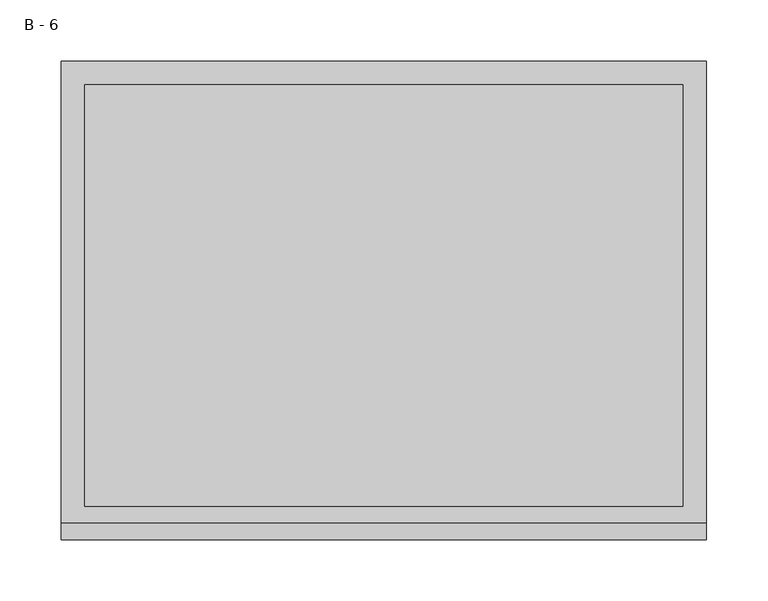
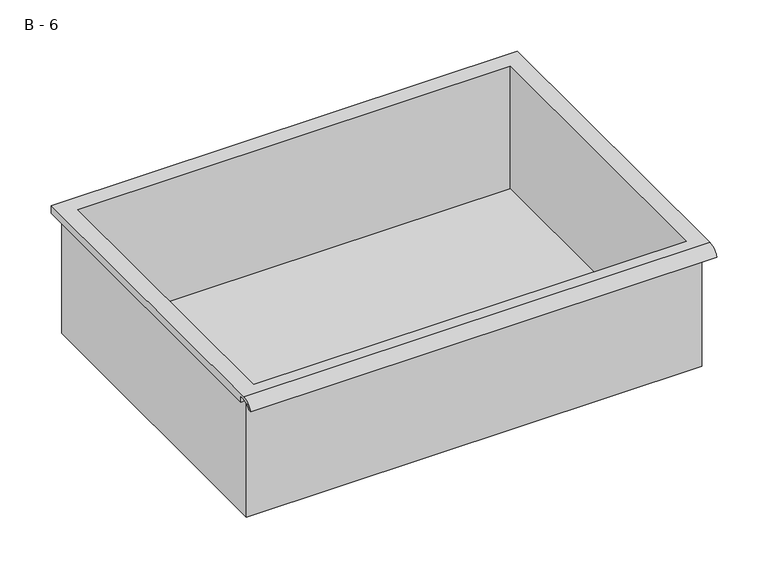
"""IFC4 building model written with IfcOpenShell, lengths in millimetres: furniture geometry, HermanMiller_CoStruc_CO207_Drawer : B - 6."""

from ifc_helpers import new_model, si_unit, frame, origin, place, context, project, spatial, polyline, circle_curve, source, transform, mapped, element, save
from ifc_brep_helpers import plane_surface, cylinder_surface, revolved_surface, advanced_brep


def b_6_520a1b3d(model_context):
    return source(origin(), model_context, "Body", "AdvancedBrep", [
        advanced_brep(
        [(-257.1076517, -176.2125, 585.8002), (257.2423483, -176.2125, 585.8002), (257.2423483, -176.2125, 725.5002), (263.5923483, -176.2125, 725.5002), (263.5923483, -176.2125, 731.8073341), (-263.4576517, -176.2125, 731.8073341), (-263.4576517, -176.2125, 725.5002), (-257.1076517, -176.2125, 725.5002), (257.2423483, 185.7375, 585.8002), (-257.1076517, 185.7375, 585.8002), (-257.1076517, 185.7375, 725.5002), (257.2423483, 185.7375, 725.5002), (263.5923483, -181.6070544, 735.0252), (263.5923483, 195.2625, 735.0252), (-263.4576517, 195.2625, 735.0252), (-263.4576517, -181.6070544, 735.0252), (244.5423483, -168.275, 735.0252), (-244.4076517, -168.275, 735.0252), (-244.4076517, 176.2125, 735.0252), (244.5423483, 176.2125, 735.0252), (263.5923483, -195.2625, 725.5002), (263.5923483, -191.8280601, 725.5002), (263.5923483, -180.4714815, 731.8073341), (263.5923483, 195.2625, 725.5002), (-263.4576517, 195.2625, 725.5002), (-263.4576517, -180.4714815, 731.8073341), (-263.4576517, -191.8280601, 725.5002), (-263.4576517, -195.2625, 725.5002), (-244.4076517, -168.275, 588.8263719), (244.5423483, -168.275, 588.8263719), (244.5423483, 176.2125, 588.8263719), (-244.4076517, 176.2125, 588.8263719)],
        [
            (0, 1),
            (1, 2),
            (2, 3),
            (3, 4),
            (4, 5),
            (5, 6),
            (6, 7),
            (7, 0),
            (8, 9),
            (9, 10),
            (10, 11),
            (11, 8),
            (0, 9),
            (8, 1),
            (11, 2),
            (12, 13),
            (13, 14),
            (14, 15),
            (15, 12),
            (16, 17),
            (17, 18),
            (18, 19),
            (19, 16),
            (7, 10),
            (12, 20, circle_curve(frame((263.5923483, -181.6070544, 720.4741859), z_axis=(1.0, 0.0, 0.0), x_axis=(0.0, 1.0, 0.0)), 14.5510141)),
            (20, 21),
            (21, 22, circle_curve(frame((263.5923483, -181.6070544, 720.4741859), z_axis=(-1.0, 0.0, 0.0), x_axis=(0.0, 1.0, 0.0)), 11.3898979)),
            (22, 4),
            (3, 23),
            (23, 13),
            (14, 24),
            (24, 6),
            (5, 25),
            (25, 26, circle_curve(frame((-263.4576517, -181.6070544, 720.4741859), z_axis=(1.0, 0.0, 0.0), x_axis=(0.0, 1.0, 0.0)), 11.3898979)),
            (26, 27),
            (27, 15, circle_curve(frame((-263.4576517, -181.6070544, 720.4741859), z_axis=(-1.0, 0.0, 0.0), x_axis=(0.0, 1.0, 0.0)), 14.5510141)),
            (27, 20),
            (26, 21),
            (25, 22),
            (24, 23),
            (28, 29),
            (29, 30),
            (30, 31),
            (31, 28),
            (28, 17),
            (16, 29),
            (19, 30),
            (18, 31),
        ],
        [
            plane_surface(frame((257.2423483, -176.2125, 585.8002), z_axis=(0.0, -1.0, 0.0), x_axis=(1.0, 0.0, 0.0))),
            plane_surface(frame((257.2423483, 185.7375, 585.8002), z_axis=(0.0, 1.0, 0.0), x_axis=(-1.0, 0.0, 0.0))),
            plane_surface(frame((-257.1076517, -176.2125, 585.8002), z_axis=(0.0, 0.0, -1.0), x_axis=(0.0, 1.0, 0.0))),
            plane_surface(frame((257.2423483, -176.2125, 585.8002), z_axis=(1.0, 0.0, 0.0), x_axis=(0.0, 1.0, 0.0))),
            plane_surface(frame((257.2423483, -176.2125, 735.0252), z_axis=(0.0, 0.0, 1.0), x_axis=(0.0, 1.0, 0.0))),
            plane_surface(frame((-257.1076517, -176.2125, 735.0252), z_axis=(-1.0, 0.0, 0.0), x_axis=(0.0, 1.0, 0.0))),
            plane_surface(frame((263.5923483, 195.2625, 735.0252), z_axis=(1.0, 0.0, 0.0), x_axis=(0.0, -1.0, 0.0))),
            plane_surface(frame((-263.4576517, 195.2625, 735.0252), z_axis=(-1.0, 0.0, 0.0), x_axis=(0.0, 1.0, 0.0))),
            cylinder_surface(frame((-263.4576517, -181.6070544, 720.4741859), z_axis=(1.0, 0.0, 0.0), x_axis=(0.0, 1.0, 0.0)), 14.5510141),
            plane_surface(frame((263.5923483, -195.2625, 725.5002), z_axis=(0.0, -7.212409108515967e-12, -1.0), x_axis=(-1.0, 0.0, 0.0))),
            revolved_surface(polyline([(-263.4576517, -170.21715650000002, 720.4741859), (263.59234829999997, -170.21715650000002, 720.4741859)]), (-263.4576517, -181.6070544, 720.4741859), (-1.0, 0.0, 0.0)),
            plane_surface(frame((263.5923483, -180.4714815, 731.8073341), z_axis=(0.0, -1.7829628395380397e-11, -1.0), x_axis=(-1.0, 0.0, 0.0))),
            plane_surface(frame((263.5923483, -176.2125, 725.5002), z_axis=(0.0, 0.0, -1.0), x_axis=(-1.0, 0.0, 0.0))),
            plane_surface(frame((263.5923483, 195.2625, 725.5002), z_axis=(0.0, 1.0, 0.0), x_axis=(-1.0, 0.0, 0.0))),
            plane_surface(frame((244.5423483, -168.275, 588.8263719), z_axis=(0.0, 0.0, 1.0), x_axis=(-1.0, 0.0, 0.0))),
            plane_surface(frame((-244.4076517, -168.275, 735.0252), z_axis=(0.0, 1.0, 0.0), x_axis=(0.0, 0.0, -1.0))),
            plane_surface(frame((244.5423483, -168.275, 735.0252), z_axis=(-1.0, 0.0, 0.0), x_axis=(0.0, 0.0, -1.0))),
            plane_surface(frame((244.5423483, 176.2125, 735.0252), z_axis=(0.0, -1.0, 0.0), x_axis=(0.0, 0.0, -1.0))),
            plane_surface(frame((-244.4076517, 176.2125, 735.0252), z_axis=(1.0, 0.0, 0.0), x_axis=(0.0, 0.0, -1.0))),
        ],
        [
            (0, [[1, 2, 3, 4, 5, 6, 7, 8]]),
            (1, [[9, 10, 11, 12]]),
            (2, [[-1, 13, -9, 14]]),
            (3, [[-14, -12, 15, -2]]),
            (4, [[16, 17, 18, 19], [20, 21, 22, 23]]),
            (5, [[-13, -8, 24, -10]]),
            (6, [[-16, 25, 26, 27, 28, -4, 29, 30]]),
            (7, [[31, 32, -6, 33, 34, 35, 36, -18]]),
            (8, [[-25, -19, -36, 37]]),
            (9, [[-26, -37, -35, 38]]),
            (10, [[-27, -38, -34, 39]]),
            (11, [[-28, -39, -33, -5]]),
            (12, [[-29, -3, -15, -11, -24, -7, -32, 40]]),
            (13, [[-30, -40, -31, -17]]),
            (14, [[41, 42, 43, 44]]),
            (15, [[-41, 45, -20, 46]]),
            (16, [[-42, -46, -23, 47]]),
            (17, [[-43, -47, -22, 48]]),
            (18, [[-44, -48, -21, -45]]),
        ],
    ),
    ])


if __name__ == "__main__":
    model = new_model("IFC4")
    model_context = context("Model", 3, world=origin())
    ifc_project = project(units=[si_unit("LENGTHUNIT", "METRE", prefix="MILLI")], contexts=[model_context])
    site = spatial("IfcSite", under=ifc_project)
    building = spatial("IfcBuilding", under=site)
    placement = place(None, origin())
    b_6_shape = b_6_520a1b3d(model_context)
    element("IfcFurniture", 1, ObjectType="HermanMiller_CoStruc_CO207_Drawer : B - 6", at=placement, inside=building, context=model_context, shape_type="MappedRepresentation", body=[
        mapped(b_6_shape, transform((0.0, 0.0, 0.0), x_axis=(1.0, 0.0, 0.0), y_axis=(0.0, 1.0, 0.0), z_axis=(0.0, 0.0, 1.0))),
    ])
    save(model, "model.ifc")
